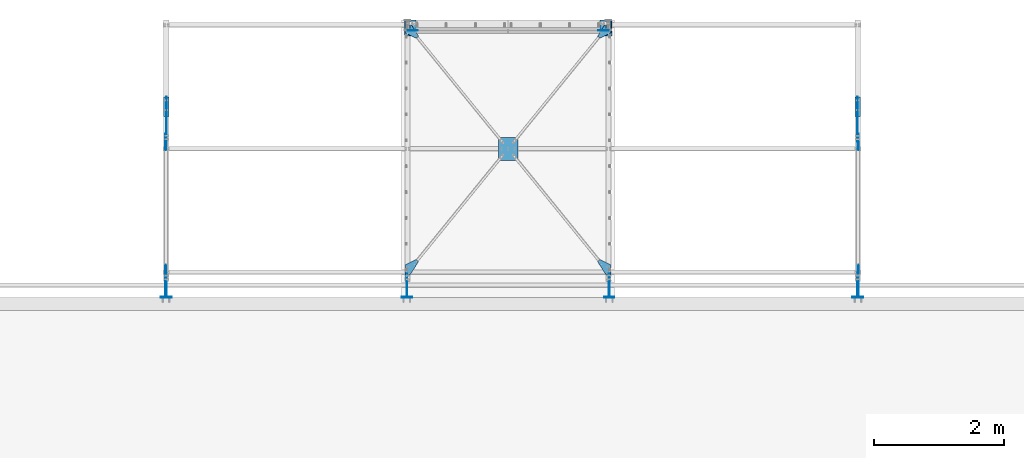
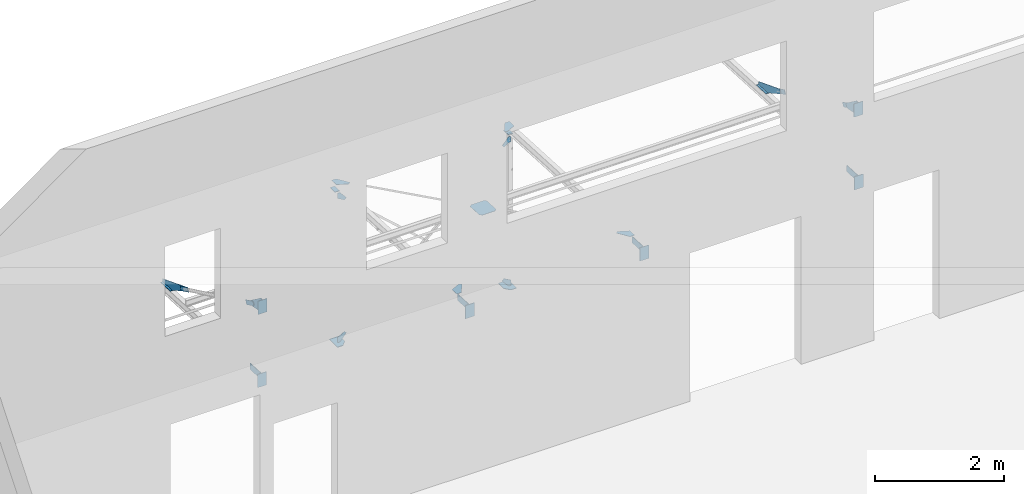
# One storey, part 4 of 10: 33 beams, 21 elements without a shape of their own.
"""IFC2X3 building model written with IfcOpenShell, lengths in millimetres."""

from ifc_helpers import new_model, si_unit, frame, frame_2d, origin_with_axes, origin_2d_with_axis, place, context, subcontext, project, spatial, polyline, circle_curve, parameter, trimmed, segment, composite_curve, rectangle, outline, extrude, material, type_object, element, aggregate, save


model = new_model("IFC2X3")

# Units and contexts
model_context = context("Model", 3, precision=1e-05, world=origin_with_axes())
body_context = subcontext(model_context, "Body", "Model", "MODEL_VIEW")
ifc_project = project(units=[si_unit("LENGTHUNIT", "METRE", prefix="MILLI"), si_unit("AREAUNIT", "SQUARE_METRE"), si_unit("VOLUMEUNIT", "CUBIC_METRE"), si_unit("MASSUNIT", "GRAM", prefix="KILO"), si_unit("TIMEUNIT", "SECOND"), si_unit("PLANEANGLEUNIT", "RADIAN"), si_unit("SOLIDANGLEUNIT", "STERADIAN"), si_unit("THERMODYNAMICTEMPERATUREUNIT", "DEGREE_CELSIUS"), si_unit("LUMINOUSINTENSITYUNIT", "LUMEN")], contexts=[model_context])

# Site, building, storey
site_placement = place(None, origin_with_axes())
site = spatial("IfcSite", under=ifc_project, at=site_placement, Name="Undefined", CompositionType="ELEMENT")
building_placement = place(site_placement, origin_with_axes())
building = spatial("IfcBuilding", under=site, at=building_placement, Name="Undefined", CompositionType="ELEMENT")
storey_placement = place(building_placement, origin_with_axes())
storey = spatial("IfcBuildingStorey", under=building, at=storey_placement, Name="Undefined", CompositionType="ELEMENT", Elevation=0.0)

# Assembly, beam
assembly_1_placement = place(storey_placement, origin_with_axes())
assembly_1 = element("IfcElementAssembly", 1, at=assembly_1_placement, inside=storey, AssemblyPlace="NOTDEFINED", PredefinedType="NOTDEFINED")
ifc_material_1 = material(Name="Undefined/S235-E24")
beam_type_1 = type_object("IfcBeamType", Name="PL5*157", PredefinedType="NOTDEFINED")
beam_1_placement = place(assembly_1_placement, frame((32002.9999702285, 29157.5000000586, 2549.99951437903), z_axis=(0.0, 1.0, 0.0), x_axis=(-0.872823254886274, 0.0, -0.488036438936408)))
beam_1 = element("IfcBeam", 2, at=beam_1_placement, type_object=beam_type_1, material=ifc_material_1, Name="GOUSSET", ObjectType="PL5*157", context=body_context, shape_type="SweptSolid", body=[
    extrude(outline(polyline([(0.0, 0.0), (141.322830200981, 6.18456397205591e-11), (152.248794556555, 48.7916336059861), (-13.0178709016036, 107.29185485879), (-48.8036422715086, 87.2823181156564), (0.0, 0.0)])), frame((0.0, 0.0, -2.5), z_axis=(0.0, 0.0, 1.0), x_axis=(1.0, 0.0, 0.0)), (0.0, 0.0, 1.0), 5.0),
])
aggregate(assembly_1, [beam_1])

assembly_2_placement = place(storey_placement, origin_with_axes())
assembly_2 = element("IfcElementAssembly", 3, at=assembly_2_placement, inside=storey, AssemblyPlace="NOTDEFINED", PredefinedType="NOTDEFINED")
beam_2_placement = place(assembly_2_placement, frame((29026.3497644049, 29157.4999999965, 2481.02868492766), z_axis=(0.0, 1.0, 0.0), x_axis=(-0.872821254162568, 0.0, 0.488040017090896)))
beam_2 = element("IfcBeam", 4, at=beam_2_placement, type_object=beam_type_1, material=ifc_material_1, Name="GOUSSET", ObjectType="PL5*157", context=body_context, shape_type="SweptSolid", body=[
    extrude(outline(polyline([(0.0, 0.0), (141.32307433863, 1.14596332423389e-10), (190.127075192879, 87.282104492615), (154.341445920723, 107.291732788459), (-10.885918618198, 48.8027305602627), (0.0, 0.0)])), frame((0.0, 0.0, -2.5), z_axis=(0.0, 0.0, 1.0), x_axis=(1.0, 0.0, 0.0)), (0.0, 0.0, 1.0), 5.0),
])
aggregate(assembly_2, [beam_2])

assembly_3_placement = place(storey_placement, origin_with_axes())
assembly_3 = element("IfcElementAssembly", 5, at=assembly_3_placement, inside=storey, AssemblyPlace="NOTDEFINED", PredefinedType="NOTDEFINED")
beam_3_placement = place(assembly_3_placement, frame((29059.6982862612, 29157.4999999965, -43.2829862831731), z_axis=(0.0, 1.0, 0.0), x_axis=(-0.659944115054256, 0.0, -0.751314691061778)))
beam_3 = element("IfcBeam", 6, at=beam_3_placement, type_object=beam_type_1, material=ifc_material_1, Name="GOUSSET", ObjectType="PL5*157", context=body_context, shape_type="SweptSolid", body=[
    extrude(outline(polyline([(0.0, 0.0), (175.315383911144, -3.89263732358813e-10), (202.37309265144, 30.8039016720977), (127.24160766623, 96.7983245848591), (-5.98146963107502, 49.6409301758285), (0.0, 0.0)])), frame((0.0, 0.0, -2.5), z_axis=(0.0, 0.0, 1.0), x_axis=(1.0, 0.0, 0.0)), (0.0, 0.0, 1.0), 5.0),
])
aggregate(assembly_3, [beam_3])

assembly_4_placement = place(storey_placement, origin_with_axes())
assembly_4 = element("IfcElementAssembly", 7, at=assembly_4_placement, inside=storey, AssemblyPlace="NOTDEFINED", PredefinedType="NOTDEFINED")
beam_4_placement = place(assembly_4_placement, frame((32002.999970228, 29157.5000000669, -75.0000000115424), z_axis=(0.0, 1.0, 0.0), x_axis=(1.80000123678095e-08, 0.0, -1.0)))
beam_4 = element("IfcBeam", 8, at=beam_4_placement, type_object=beam_type_1, material=ifc_material_1, Name="GOUSSET", ObjectType="PL5*157", context=body_context, shape_type="SweptSolid", body=[
    extrude(outline(polyline([(0.0, 0.0), (100.0, 4.91127138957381e-10), (100.0, 40.9999923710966), (-31.7170257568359, 156.698348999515), (-68.9712295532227, 123.349815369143), (0.0, 0.0)])), frame((0.0, 0.0, -2.5), z_axis=(0.0, 0.0, 1.0), x_axis=(1.0, 0.0, 0.0)), (0.0, 0.0, 1.0), 5.0),
])
aggregate(assembly_4, [beam_4])

assembly_5_placement = place(storey_placement, origin_with_axes())
assembly_5 = element("IfcElementAssembly", 9, at=assembly_5_placement, inside=storey, Name="POTEAU", AssemblyPlace="NOTDEFINED", PredefinedType="NOTDEFINED")
beam_type_2 = type_object("IfcBeamType", Name="PL10*82", PredefinedType="NOTDEFINED")
beam_5_placement = place(assembly_5_placement, frame((28902.9999703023, 29316.656577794, 2668.75845304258), z_axis=(1.0, 0.0, 0.0), x_axis=(0.0, -0.998630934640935, 0.0523092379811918)))
beam_5 = element("IfcBeam", 10, at=beam_5_placement, type_object=beam_type_2, material=ifc_material_1, Name="PLAT", ObjectType="PL10*82", context=body_context, shape_type="SweptSolid", body=[
    extrude(rectangle(XDim=10.0, YDim=82.0, at=origin_2d_with_axis()), frame((152.999350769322, 0.0, 0.0), z_axis=(-1.0, 0.0, 0.0), x_axis=(-8.92000021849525e-07, -0.999999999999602, 0.0)), (0.0, 0.0, 1.0), 153.0),
])

assembly_6_placement = place(storey_placement, origin_with_axes())
assembly_6 = element("IfcElementAssembly", 11, at=assembly_6_placement, inside=storey, Name="POTEAU", AssemblyPlace="NOTDEFINED", PredefinedType="NOTDEFINED")
beam_6_placement = place(assembly_6_placement, frame((32002.9999703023, 29316.6565777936, 2668.75845304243), z_axis=(1.0, 0.0, 0.0), x_axis=(0.0, -0.998630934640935, 0.0523092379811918)))
beam_6 = element("IfcBeam", 12, at=beam_6_placement, type_object=beam_type_2, material=ifc_material_1, Name="PLAT", ObjectType="PL10*82", context=body_context, shape_type="SweptSolid", body=[
    extrude(rectangle(XDim=10.0, YDim=82.0, at=origin_2d_with_axis()), frame((152.999350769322, 0.0, 0.0), z_axis=(-1.0, 0.0, 0.0), x_axis=(-8.92000021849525e-07, -0.999999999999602, 0.0)), (0.0, 0.0, 1.0), 153.0),
])

assembly_7_placement = place(storey_placement, origin_with_axes())
assembly_7 = element("IfcElementAssembly", 13, at=assembly_7_placement, inside=storey, AssemblyPlace="NOTDEFINED", PredefinedType="NOTDEFINED")
ifc_material_2 = material(Name="Undefined/S275-E28")
beam_7_placement = place(assembly_7_placement, frame((25185.000028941, 27831.4545141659, 2916.78781044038), z_axis=(1.0, 0.0, 0.0), x_axis=(-6.99999093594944e-09, 0.998630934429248, -0.0523092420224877)))
beam_7 = element("IfcBeam", 14, at=beam_7_placement, type_object=beam_type_2, material=ifc_material_2, Name="PLATINE", ObjectType="PL10*82", context=body_context, shape_type="SweptSolid", body=[
    extrude(rectangle(XDim=10.0, YDim=82.0, at=origin_2d_with_axis()), frame((299.999999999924, 0.0, 3.63797880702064e-12), z_axis=(-1.0, 0.0, 0.0), x_axis=(-8.92000021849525e-07, -0.999999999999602, 0.0)), (0.0, 0.0, 1.0), 300.0),
])

assembly_8_placement = place(storey_placement, origin_with_axes())
assembly_8 = element("IfcElementAssembly", 15, at=assembly_8_placement, inside=storey, AssemblyPlace="NOTDEFINED", PredefinedType="NOTDEFINED")
beam_8_placement = place(assembly_8_placement, frame((35842.9999696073, 27831.4545139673, 2916.78781044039), z_axis=(-1.0, 0.0, 0.0), x_axis=(-6.99999093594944e-09, 0.998630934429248, -0.0523092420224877)))
beam_8 = element("IfcBeam", 16, at=beam_8_placement, type_object=beam_type_2, material=ifc_material_2, Name="PLATINE", ObjectType="PL10*82", context=body_context, shape_type="SweptSolid", body=[
    extrude(rectangle(XDim=10.0, YDim=82.0, at=origin_2d_with_axis()), frame((299.999999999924, 0.0, 3.63797880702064e-12), z_axis=(-1.0, 0.0, 0.0), x_axis=(-8.92000021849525e-07, -0.999999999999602, 0.0)), (0.0, 0.0, 1.0), 300.0),
])

assembly_9_placement = place(storey_placement, origin_with_axes())
assembly_9 = element("IfcElementAssembly", 17, at=assembly_9_placement, inside=storey, AssemblyPlace="NOTDEFINED", PredefinedType="NOTDEFINED")
beam_type_3 = type_object("IfcBeamType", Name="PL5*300", PredefinedType="NOTDEFINED")
beam_9_placement = place(assembly_9_placement, frame((30302.8720014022, 27187.3588080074, 2943.01587178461), z_axis=(-3.30331196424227e-10, 0.0523092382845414, 0.998630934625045), x_axis=(0.776487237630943, -0.629270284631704, 0.0329617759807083)))
beam_9 = element("IfcBeam", 18, at=beam_9_placement, type_object=beam_type_3, material=ifc_material_1, Name="GOUSSET", ObjectType="PL5*300", context=body_context, shape_type="SweptSolid", body=[
    extrude(outline(polyline([(0.0, 0.0), (49.9999999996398, -7.27595761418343e-12), (222.851638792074, 140.272125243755), (233.144882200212, 189.201156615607), (49.9999999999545, 414.883178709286), (-7.53022504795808e-07, 414.883178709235), (-172.851669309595, 274.611022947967), (-183.144912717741, 225.681991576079), (0.0, 0.0)])), frame((0.0, 0.0, -2.5), z_axis=(0.0, 0.0, 1.0), x_axis=(1.0, 0.0, 0.0)), (0.0, 0.0, 1.0), 5.0),
])
aggregate(assembly_9, [beam_9])

assembly_10_placement = place(storey_placement, origin_with_axes())
assembly_10 = element("IfcElementAssembly", 19, at=assembly_10_placement, inside=storey, AssemblyPlace="NOTDEFINED", PredefinedType="NOTDEFINED")
beam_type_4 = type_object("IfcBeamType", Name="PL5*211", PredefinedType="NOTDEFINED")
beam_10_placement = place(assembly_10_placement, frame((28861.9999396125, 25541.1572011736, 3031.74890578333), z_axis=(-3.30331196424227e-10, 0.0523092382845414, 0.998630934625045), x_axis=(0.0, -0.998630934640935, 0.0523092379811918)))
beam_10 = element("IfcBeam", 20, at=beam_10_placement, type_object=beam_type_4, material=ifc_material_1, Name="GOUSSET", ObjectType="PL5*211", context=body_context, shape_type="SweptSolid", body=[
    extrude(outline(polyline([(0.0, 0.0), (149.999999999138, -4.0381564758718e-10), (149.999999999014, 82.0000305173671), (-54.2889137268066, 211.461898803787), (-85.7955627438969, 172.637542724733), (0.0, 0.0)])), frame((0.0, 0.0, -2.5), z_axis=(0.0, 0.0, 1.0), x_axis=(1.0, 0.0, 0.0)), (0.0, 0.0, 1.0), 5.0),
])
aggregate(assembly_10, [beam_10])

assembly_11_placement = place(storey_placement, origin_with_axes())
assembly_11 = element("IfcElementAssembly", 21, at=assembly_11_placement, inside=storey, AssemblyPlace="NOTDEFINED", PredefinedType="NOTDEFINED")
beam_11_placement = place(assembly_11_placement, frame((32043.9999390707, 25391.3625354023, 3039.5952929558), z_axis=(-3.30331196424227e-10, 0.0523092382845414, 0.998630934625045), x_axis=(-6.99999093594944e-09, 0.998630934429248, -0.0523092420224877)))
beam_11 = element("IfcBeam", 22, at=beam_11_placement, type_object=beam_type_4, material=ifc_material_1, Name="GOUSSET", ObjectType="PL5*211", context=body_context, shape_type="SweptSolid", body=[
    extrude(outline(polyline([(0.0, 0.0), (149.999999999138, -4.0381564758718e-10), (235.795623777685, 172.637481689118), (204.288955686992, 211.461837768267), (3.75086528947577e-07, 81.9999694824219), (0.0, 0.0)])), frame((0.0, 0.0, -2.5), z_axis=(0.0, 0.0, 1.0), x_axis=(1.0, 0.0, 0.0)), (0.0, 0.0, 1.0), 5.0),
])
aggregate(assembly_11, [beam_11])

assembly_12_placement = place(storey_placement, origin_with_axes())
assembly_12 = element("IfcElementAssembly", 23, at=assembly_12_placement, inside=storey, AssemblyPlace="NOTDEFINED", PredefinedType="NOTDEFINED")
beam_12_placement = place(assembly_12_placement, frame((32043.9999396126, 29124.0703911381, 2844.07250350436), z_axis=(-3.30331196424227e-10, 0.0523092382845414, 0.998630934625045), x_axis=(-6.99999093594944e-09, 0.998630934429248, -0.0523092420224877)))
beam_12 = element("IfcBeam", 24, at=beam_12_placement, type_object=beam_type_4, material=ifc_material_1, Name="GOUSSET", ObjectType="PL5*211", context=body_context, shape_type="SweptSolid", body=[
    extrude(outline(polyline([(0.0, 0.0), (149.999999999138, -4.0381564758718e-10), (149.999999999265, 81.9999618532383), (-54.2904396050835, 211.461868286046), (-85.7970886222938, 172.6375122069), (0.0, 0.0)])), frame((0.0, 0.0, -2.5), z_axis=(0.0, 0.0, 1.0), x_axis=(1.0, 0.0, 0.0)), (0.0, 0.0, 1.0), 5.0),
])
aggregate(assembly_12, [beam_12])

assembly_13_placement = place(storey_placement, origin_with_axes())
assembly_13 = element("IfcElementAssembly", 25, at=assembly_13_placement, inside=storey, AssemblyPlace="NOTDEFINED", PredefinedType="NOTDEFINED")
beam_13_placement = place(assembly_13_placement, frame((28861.9999390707, 29273.8650059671, 2836.22611900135), z_axis=(-3.30331196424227e-10, 0.0523092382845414, 0.998630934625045), x_axis=(0.0, -0.998630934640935, 0.0523092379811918)))
beam_13 = element("IfcBeam", 26, at=beam_13_placement, type_object=beam_type_4, material=ifc_material_1, Name="GOUSSET", ObjectType="PL5*211", context=body_context, shape_type="SweptSolid", body=[
    extrude(outline(polyline([(0.0, 0.0), (149.999999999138, -4.0381564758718e-10), (235.797088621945, 172.637512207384), (204.29043579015, 211.461868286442), (3.75086528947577e-07, 81.9999694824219), (0.0, 0.0)])), frame((0.0, 0.0, -2.5), z_axis=(0.0, 0.0, 1.0), x_axis=(1.0, 0.0, 0.0)), (0.0, 0.0, 1.0), 5.0),
])
aggregate(assembly_13, [beam_13])

assembly_14_placement = place(storey_placement, origin_with_axes())
assembly_14 = element("IfcElementAssembly", 27, at=assembly_14_placement, inside=storey, AssemblyPlace="NOTDEFINED", PredefinedType="NOTDEFINED")
beam_type_5 = type_object("IfcBeamType", Name="PL10*160", PredefinedType="NOTDEFINED")
beam_14_placement = place(assembly_14_placement, frame((28893.0000296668, 25044.9999028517, 3050.00032752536), z_axis=(1.0, 0.0, 0.0), x_axis=(1.80000123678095e-08, 0.0, -1.0)))
beam_14 = element("IfcBeam", 28, at=beam_14_placement, type_object=beam_type_5, material=ifc_material_2, Name="PLATINE", ObjectType="PL10*160", context=body_context, shape_type="SweptSolid", body=[
    extrude(rectangle(XDim=10.0, YDim=160.0, at=origin_2d_with_axis()), frame((249.999999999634, 3.6379788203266e-12, 0.0), z_axis=(-1.0, 0.0, 0.0), x_axis=(-8.92000021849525e-07, -0.999999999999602, 0.0)), (0.0, 0.0, 1.0), 250.0),
])

assembly_15_placement = place(storey_placement, origin_with_axes())
assembly_15 = element("IfcElementAssembly", 29, at=assembly_15_placement, inside=storey, AssemblyPlace="NOTDEFINED", PredefinedType="NOTDEFINED")
beam_15_placement = place(assembly_15_placement, frame((32012.9999703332, 25044.9999028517, 3050.00032752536), z_axis=(-1.0, 0.0, 0.0), x_axis=(1.80000123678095e-08, 0.0, -1.0)))
beam_15 = element("IfcBeam", 30, at=beam_15_placement, type_object=beam_type_5, material=ifc_material_2, Name="PLATINE", ObjectType="PL10*160", context=body_context, shape_type="SweptSolid", body=[
    extrude(rectangle(XDim=10.0, YDim=160.0, at=origin_2d_with_axis()), frame((249.999999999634, 3.6379788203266e-12, 0.0), z_axis=(-1.0, 0.0, 0.0), x_axis=(-8.92000021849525e-07, -0.999999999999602, 0.0)), (0.0, 0.0, 1.0), 250.0),
])

assembly_16_placement = place(storey_placement, origin_with_axes())
assembly_16 = element("IfcElementAssembly", 31, at=assembly_16_placement, inside=storey, AssemblyPlace="NOTDEFINED", PredefinedType="NOTDEFINED")
beam_16_placement = place(assembly_16_placement, frame((25185.0000296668, 25044.9999028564, 4430.00032752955), z_axis=(1.0, 0.0, 0.0), x_axis=(1.80000123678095e-08, 0.0, -1.0)))
beam_16 = element("IfcBeam", 32, at=beam_16_placement, type_object=beam_type_5, material=ifc_material_2, Name="PLATINE", ObjectType="PL10*160", context=body_context, shape_type="SweptSolid", body=[
    extrude(rectangle(XDim=10.0, YDim=160.0, at=origin_2d_with_axis()), frame((249.999999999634, 3.6379788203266e-12, 0.0), z_axis=(-1.0, 0.0, 0.0), x_axis=(-8.92000021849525e-07, -0.999999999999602, 0.0)), (0.0, 0.0, 1.0), 250.0),
])

assembly_17_placement = place(storey_placement, origin_with_axes())
assembly_17 = element("IfcElementAssembly", 33, at=assembly_17_placement, inside=storey, AssemblyPlace="NOTDEFINED", PredefinedType="NOTDEFINED")
beam_17_placement = place(assembly_17_placement, frame((25175.0000296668, 25044.9999028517, 3050.00032752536), z_axis=(1.0, 0.0, 0.0), x_axis=(1.80000123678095e-08, 0.0, -1.0)))
beam_17 = element("IfcBeam", 34, at=beam_17_placement, type_object=beam_type_5, material=ifc_material_2, Name="PLATINE", ObjectType="PL10*160", context=body_context, shape_type="SweptSolid", body=[
    extrude(rectangle(XDim=10.0, YDim=160.0, at=origin_2d_with_axis()), frame((249.999999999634, 3.6379788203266e-12, 0.0), z_axis=(-1.0, 0.0, 0.0), x_axis=(-8.92000021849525e-07, -0.999999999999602, 0.0)), (0.0, 0.0, 1.0), 250.0),
])

assembly_18_placement = place(storey_placement, origin_with_axes())
assembly_18 = element("IfcElementAssembly", 35, at=assembly_18_placement, inside=storey, AssemblyPlace="NOTDEFINED", PredefinedType="NOTDEFINED")
beam_18_placement = place(assembly_18_placement, frame((35842.9999703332, 25044.9999026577, 4430.00032752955), z_axis=(-1.0, 0.0, 0.0), x_axis=(1.80000123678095e-08, 0.0, -1.0)))
beam_18 = element("IfcBeam", 36, at=beam_18_placement, type_object=beam_type_5, material=ifc_material_2, Name="PLATINE", ObjectType="PL10*160", context=body_context, shape_type="SweptSolid", body=[
    extrude(rectangle(XDim=10.0, YDim=160.0, at=origin_2d_with_axis()), frame((249.999999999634, 3.6379788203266e-12, 0.0), z_axis=(-1.0, 0.0, 0.0), x_axis=(-8.92000021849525e-07, -0.999999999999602, 0.0)), (0.0, 0.0, 1.0), 250.0),
])

assembly_19_placement = place(storey_placement, origin_with_axes())
assembly_19 = element("IfcElementAssembly", 37, at=assembly_19_placement, inside=storey, AssemblyPlace="NOTDEFINED", PredefinedType="NOTDEFINED")
beam_19_placement = place(assembly_19_placement, frame((35852.9999703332, 25044.999902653, 3050.00032752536), z_axis=(-1.0, 0.0, 0.0), x_axis=(1.80000123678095e-08, 0.0, -1.0)))
beam_19 = element("IfcBeam", 38, at=beam_19_placement, type_object=beam_type_5, material=ifc_material_2, Name="PLATINE", ObjectType="PL10*160", context=body_context, shape_type="SweptSolid", body=[
    extrude(rectangle(XDim=10.0, YDim=160.0, at=origin_2d_with_axis()), frame((249.999999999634, 3.6379788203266e-12, 0.0), z_axis=(-1.0, 0.0, 0.0), x_axis=(-8.92000021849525e-07, -0.999999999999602, 0.0)), (0.0, 0.0, 1.0), 250.0),
])

# Beam
beam_type_6 = type_object("IfcBeamType", Name="PL10*360", PredefinedType="NOTDEFINED")
beam_20_placement = place(assembly_14_placement, frame((28893.0000296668, 25409.9999999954, 2898.42711388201), z_axis=(-1.0, 0.0, 0.0), x_axis=(0.0, -0.998630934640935, 0.0523092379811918)))
beam_20 = element("IfcBeam", 39, at=beam_20_placement, type_object=beam_type_6, material=ifc_material_1, Name="GOUSSET", ObjectType="PL10*360", context=body_context, shape_type="SweptSolid", body=[
    extrude(outline(polyline([(0.0, 0.0), (230.315322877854, 6.41193764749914e-10), (334.385864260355, -116.077178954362), (354.358612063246, -117.123367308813), (366.779327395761, 120.000000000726), (6.28570985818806, 120.000007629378), (0.0, 0.0)])), frame((0.0, 0.0, -5.0), z_axis=(0.0, 0.0, 1.0), x_axis=(1.0, 0.0, 0.0)), (0.0, 0.0, 1.0), 10.0),
])

aggregate(assembly_14, [beam_14, beam_20])

beam_21_placement = place(assembly_15_placement, frame((32012.9999703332, 25409.9999999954, 2898.42711388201), z_axis=(-1.0, 0.0, 0.0), x_axis=(0.0, -0.998630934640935, 0.0523092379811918)))
beam_21 = element("IfcBeam", 40, at=beam_21_placement, type_object=beam_type_6, material=ifc_material_1, Name="GOUSSET", ObjectType="PL10*360", context=body_context, shape_type="SweptSolid", body=[
    extrude(outline(polyline([(0.0, 0.0), (230.315322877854, 6.41193764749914e-10), (334.385864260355, -116.077178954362), (354.358612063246, -117.123367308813), (366.779327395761, 120.000000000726), (6.28570985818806, 120.000007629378), (0.0, 0.0)])), frame((0.0, 0.0, -5.0), z_axis=(0.0, 0.0, 1.0), x_axis=(1.0, 0.0, 0.0)), (0.0, 0.0, 1.0), 10.0),
])

aggregate(assembly_15, [beam_15, beam_21])

beam_22_placement = place(assembly_17_placement, frame((25175.0000296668, 25409.9999999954, 2898.42711388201), z_axis=(-1.0, 0.0, 0.0), x_axis=(0.0, -0.998630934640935, 0.0523092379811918)))
beam_22 = element("IfcBeam", 41, at=beam_22_placement, type_object=beam_type_6, material=ifc_material_1, Name="GOUSSET", ObjectType="PL10*360", context=body_context, shape_type="SweptSolid", body=[
    extrude(outline(polyline([(0.0, 0.0), (230.315322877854, 6.41193764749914e-10), (334.385864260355, -116.077178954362), (354.358612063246, -117.123367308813), (366.779327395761, 120.000000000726), (6.28570985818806, 120.000007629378), (0.0, 0.0)])), frame((0.0, 0.0, -5.0), z_axis=(0.0, 0.0, 1.0), x_axis=(1.0, 0.0, 0.0)), (0.0, 0.0, 1.0), 10.0),
])

aggregate(assembly_17, [beam_17, beam_22])

beam_23_placement = place(assembly_19_placement, frame((35852.9999703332, 25409.9999997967, 2898.42711388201), z_axis=(-1.0, 0.0, 0.0), x_axis=(0.0, -0.998630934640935, 0.0523092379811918)))
beam_23 = element("IfcBeam", 42, at=beam_23_placement, type_object=beam_type_6, material=ifc_material_1, Name="GOUSSET", ObjectType="PL10*360", context=body_context, shape_type="SweptSolid", body=[
    extrude(outline(polyline([(0.0, 0.0), (230.315322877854, 6.41193764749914e-10), (334.385864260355, -116.077178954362), (354.358612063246, -117.123367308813), (366.779327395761, 120.000000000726), (6.28570985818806, 120.000007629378), (0.0, 0.0)])), frame((0.0, 0.0, -5.0), z_axis=(0.0, 0.0, 1.0), x_axis=(1.0, 0.0, 0.0)), (0.0, 0.0, 1.0), 10.0),
])

aggregate(assembly_19, [beam_23, beam_19])

# Assembly, beams
assembly_20_placement = place(storey_placement, origin_with_axes())
assembly_20 = element("IfcElementAssembly", 43, at=assembly_20_placement, inside=storey, AssemblyPlace="NOTDEFINED", PredefinedType="NOTDEFINED")
beam_type_7 = type_object("IfcBeamType", Name="PL10*80", PredefinedType="NOTDEFINED")
beam_24_placement = place(assembly_20_placement, frame((25175.0000293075, 27344.6103668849, 3273.48983429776), z_axis=(1.0, 0.0, 0.0), x_axis=(0.0, -0.431020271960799, -0.902342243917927)))
beam_24 = element("IfcBeam", 44, at=beam_24_placement, type_object=beam_type_7, material=ifc_material_1, Name="GOUSSET", ObjectType="PL10*80", context=body_context, shape_type="SweptSolid", body=[
    extrude(outline(composite_curve([segment(polyline([(0.0, 0.0), (80.00000000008, 8.00355337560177e-11), (80.0000000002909, 219.999999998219)]), True, "CONTINUOUS"), segment(trimmed(circle_curve(frame_2d((40.0000000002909, 219.999999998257), x_axis=(1.0, 0.0)), 40.0), [parameter(0.0)], [parameter(1.57079632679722)], True, "PARAMETER"), True, "CONTINUOUS"), segment(trimmed(circle_curve(frame_2d((40.0000000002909, 219.999999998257), x_axis=(0.0, 1.0)), 40.0), [parameter(0.0)], [parameter(1.57079632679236)], True, "PARAMETER"), True, "CONTINUOUS"), segment(polyline([(2.58576339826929e-10, 219.999999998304), (0.0, 0.0)]), True, "CONTINUOUS")], self_intersect=True)), frame((0.0, 0.0, -5.0), z_axis=(0.0, 0.0, 1.0), x_axis=(1.0, 0.0, 0.0)), (0.0, 0.0, 1.0), 10.0),
])
beam_25_placement = place(assembly_20_placement, frame((25175.0000297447, 25546.3609697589, 4132.45653951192), z_axis=(-1.0, 0.0, 0.0), x_axis=(0.0, -0.431020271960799, -0.902342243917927)))
beam_25 = element("IfcBeam", 45, at=beam_25_placement, type_object=beam_type_7, material=ifc_material_1, Name="GOUSSET", ObjectType="PL10*80", context=body_context, shape_type="SweptSolid", body=[
    extrude(outline(composite_curve([segment(polyline([(0.0, 0.0), (80.00000000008, 8.00355337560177e-11), (80.0000000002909, 219.999999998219)]), True, "CONTINUOUS"), segment(trimmed(circle_curve(frame_2d((40.0000000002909, 219.999999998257), x_axis=(1.0, 0.0)), 40.0), [parameter(0.0)], [parameter(1.57079632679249)], True, "PARAMETER"), True, "CONTINUOUS"), segment(trimmed(circle_curve(frame_2d((40.0000000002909, 219.999999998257), x_axis=(0.0, 1.0)), 40.0), [parameter(0.0)], [parameter(1.57079632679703)], True, "PARAMETER"), True, "CONTINUOUS"), segment(polyline([(2.58576339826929e-10, 219.999999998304), (0.0, 0.0)]), True, "CONTINUOUS")], self_intersect=True)), frame((0.0, 0.0, -5.0), z_axis=(0.0, 0.0, 1.0), x_axis=(1.0, 0.0, 0.0)), (0.0, 0.0, 1.0), 10.0),
])
aggregate(assembly_20, [beam_24, beam_25])

assembly_21_placement = place(storey_placement, origin_with_axes())
assembly_21 = element("IfcElementAssembly", 46, at=assembly_21_placement, inside=storey, AssemblyPlace="NOTDEFINED", PredefinedType="NOTDEFINED")
beam_26_placement = place(assembly_21_placement, frame((35852.9999699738, 27344.6103670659, 3273.4898292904), z_axis=(1.0, 0.0, 0.0), x_axis=(0.0, -0.431020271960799, -0.902342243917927)))
beam_26 = element("IfcBeam", 47, at=beam_26_placement, type_object=beam_type_7, material=ifc_material_1, Name="GOUSSET", ObjectType="PL10*80", context=body_context, shape_type="SweptSolid", body=[
    extrude(outline(composite_curve([segment(polyline([(0.0, 0.0), (80.00000000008, 8.00355337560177e-11), (80.0000000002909, 219.999999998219)]), True, "CONTINUOUS"), segment(trimmed(circle_curve(frame_2d((40.0000000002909, 219.999999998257), x_axis=(1.0, 0.0)), 40.0), [parameter(0.0)], [parameter(1.57079632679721)], True, "PARAMETER"), True, "CONTINUOUS"), segment(trimmed(circle_curve(frame_2d((40.0000000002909, 219.999999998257), x_axis=(0.0, 1.0)), 40.0), [parameter(0.0)], [parameter(1.57079632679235)], True, "PARAMETER"), True, "CONTINUOUS"), segment(polyline([(2.58576339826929e-10, 219.999999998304), (0.0, 0.0)]), True, "CONTINUOUS")], self_intersect=True)), frame((0.0, 0.0, -5.0), z_axis=(0.0, 0.0, 1.0), x_axis=(1.0, 0.0, 0.0)), (0.0, 0.0, 1.0), 10.0),
])
beam_27_placement = place(assembly_21_placement, frame((35852.999970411, 25546.3609699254, 4132.45653446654), z_axis=(-1.0, 0.0, 0.0), x_axis=(0.0, -0.431020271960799, -0.902342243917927)))
beam_27 = element("IfcBeam", 48, at=beam_27_placement, type_object=beam_type_7, material=ifc_material_1, Name="GOUSSET", ObjectType="PL10*80", context=body_context, shape_type="SweptSolid", body=[
    extrude(outline(composite_curve([segment(polyline([(0.0, 0.0), (80.00000000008, 8.00355337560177e-11), (80.0000000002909, 219.999999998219)]), True, "CONTINUOUS"), segment(trimmed(circle_curve(frame_2d((40.0000000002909, 219.999999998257), x_axis=(1.0, 0.0)), 40.0), [parameter(0.0)], [parameter(1.57079632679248)], True, "PARAMETER"), True, "CONTINUOUS"), segment(trimmed(circle_curve(frame_2d((40.0000000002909, 219.999999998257), x_axis=(0.0, 1.0)), 40.0), [parameter(0.0)], [parameter(1.57079632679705)], True, "PARAMETER"), True, "CONTINUOUS"), segment(polyline([(2.58576339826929e-10, 219.999999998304), (0.0, 0.0)]), True, "CONTINUOUS")], self_intersect=True)), frame((0.0, 0.0, -5.0), z_axis=(0.0, 0.0, 1.0), x_axis=(1.0, 0.0, 0.0)), (0.0, 0.0, 1.0), 10.0),
])
aggregate(assembly_21, [beam_26, beam_27])

# Beam
beam_type_8 = type_object("IfcBeamType", Name="PL10*370", PredefinedType="NOTDEFINED")
beam_28_placement = place(assembly_16_placement, frame((25185.0000297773, 25420.0330477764, 4192.79936103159), z_axis=(-1.0, 0.0, 0.0), x_axis=(0.0, -0.431020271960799, -0.902342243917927)))
beam_28 = element("IfcBeam", 49, at=beam_28_placement, type_object=beam_type_8, material=ifc_material_1, Name="GOUSSET", ObjectType="PL10*370", context=body_context, shape_type="SweptSolid", body=[
    extrude(outline(polyline([(0.0, 0.0), (80.00000000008, 8.00355337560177e-11), (171.041168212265, 328.379669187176), (-54.5444107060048, 436.134674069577), (-76.0954360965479, 391.017608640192), (0.0, 0.0)])), frame((0.0, 0.0, -5.0), z_axis=(0.0, 0.0, 1.0), x_axis=(1.0, 0.0, 0.0)), (0.0, 0.0, 1.0), 10.0),
])

aggregate(assembly_16, [beam_16, beam_28])

beam_29_placement = place(assembly_18_placement, frame((35842.9999704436, 25420.0330798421, 4192.79936103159), z_axis=(-1.0, 0.0, 0.0), x_axis=(0.0, -0.431020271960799, -0.902342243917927)))
beam_29 = element("IfcBeam", 50, at=beam_29_placement, type_object=beam_type_8, material=ifc_material_1, Name="GOUSSET", ObjectType="PL10*370", context=body_context, shape_type="SweptSolid", body=[
    extrude(outline(polyline([(0.0, 0.0), (80.00000000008, 8.00355337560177e-11), (171.041168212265, 328.379669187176), (-54.5444107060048, 436.134674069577), (-76.0954055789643, 391.01763915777), (0.0, 0.0)])), frame((0.0, 0.0, -5.0), z_axis=(0.0, 0.0, 1.0), x_axis=(1.0, 0.0, 0.0)), (0.0, 0.0, 1.0), 10.0),
])

aggregate(assembly_18, [beam_29, beam_18])

beam_type_9 = type_object("IfcBeamType", Name="PL10*141", PredefinedType="NOTDEFINED")
beam_30_placement = place(assembly_7_placement, frame((25185.0000292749, 27470.938273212, 3213.14697970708), z_axis=(1.0, 0.0, 0.0), x_axis=(0.0, -0.431020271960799, -0.902342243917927)))
beam_30 = element("IfcBeam", 51, at=beam_30_placement, type_object=beam_type_9, material=ifc_material_1, Name="GOUSSET", ObjectType="PL10*141", context=body_context, shape_type="SweptSolid", body=[
    extrude(outline(polyline([(0.0, 0.0), (80.00000000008, 8.00355337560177e-11), (107.409309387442, 451.129699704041), (-7.5594706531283, 728.225769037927), (-53.7421607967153, 709.064208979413), (0.0, 0.0)])), frame((0.0, 0.0, -5.0), z_axis=(0.0, 0.0, 1.0), x_axis=(1.0, 0.0, 0.0)), (0.0, 0.0, 1.0), 10.0),
])

aggregate(assembly_7, [beam_7, beam_30])

beam_31_placement = place(assembly_8_placement, frame((35842.9999699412, 27470.9383052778, 3213.14697970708), z_axis=(1.0, 0.0, 0.0), x_axis=(0.0, -0.431020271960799, -0.902342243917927)))
beam_31 = element("IfcBeam", 52, at=beam_31_placement, type_object=beam_type_9, material=ifc_material_1, Name="GOUSSET", ObjectType="PL10*141", context=body_context, shape_type="SweptSolid", body=[
    extrude(outline(polyline([(0.0, 0.0), (80.00000000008, 8.00355337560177e-11), (107.409339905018, 451.129669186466), (-7.55942726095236, 728.22570800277), (-53.7421607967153, 709.064208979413), (0.0, 0.0)])), frame((0.0, 0.0, -5.0), z_axis=(0.0, 0.0, 1.0), x_axis=(1.0, 0.0, 0.0)), (0.0, 0.0, 1.0), 10.0),
])

aggregate(assembly_8, [beam_8, beam_31])

beam_type_10 = type_object("IfcBeamType", Name="TOLE10*180", PredefinedType="NOTDEFINED")
beam_32_placement = place(assembly_6_placement, frame((31872.9949962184, 29320.0000661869, -195.0), z_axis=(1.80000123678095e-08, 0.0, -1.0), x_axis=(1.0, 0.0, 0.0)))
beam_32 = element("IfcBeam", 53, at=beam_32_placement, type_object=beam_type_10, material=ifc_material_1, Name="PLATINE", ObjectType="TOLE10*180", context=body_context, shape_type="SweptSolid", body=[
    extrude(outline(polyline([(0.0, 0.0), (180.000061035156, 0.0), (180.0, 250.0), (80.0, 250.0), (0.0, 160.0), (0.0, 0.0)])), frame((0.0, 0.0, -5.0), z_axis=(0.0, 0.0, 1.0), x_axis=(1.0, 0.0, 0.0)), (0.0, 0.0, 1.0), 10.0),
])

aggregate(assembly_6, [beam_6, beam_32])

beam_33_placement = place(assembly_5_placement, frame((29032.9999997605, 29320.0000661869, -195.0), z_axis=(0.0, 0.0, 1.0), x_axis=(-1.0, 0.0, 0.0)))
beam_33 = element("IfcBeam", 54, at=beam_33_placement, type_object=beam_type_10, material=ifc_material_1, Name="PLATINE", ObjectType="TOLE10*180", context=body_context, shape_type="SweptSolid", body=[
    extrude(outline(polyline([(0.0, 0.0), (180.000061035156, 0.0), (180.0, 250.0), (80.0, 250.0), (0.0, 160.0), (0.0, 0.0)])), frame((0.0, 0.0, -5.0), z_axis=(0.0, 0.0, 1.0), x_axis=(1.0, 0.0, 0.0)), (0.0, 0.0, 1.0), 10.0),
])

aggregate(assembly_5, [beam_5, beam_33])

save(model, "model.ifc")
